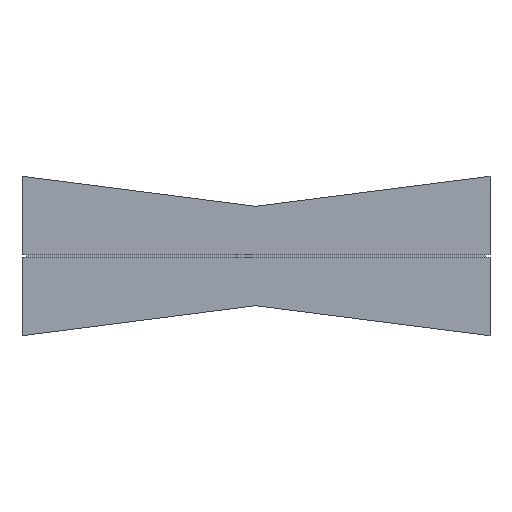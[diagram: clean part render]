
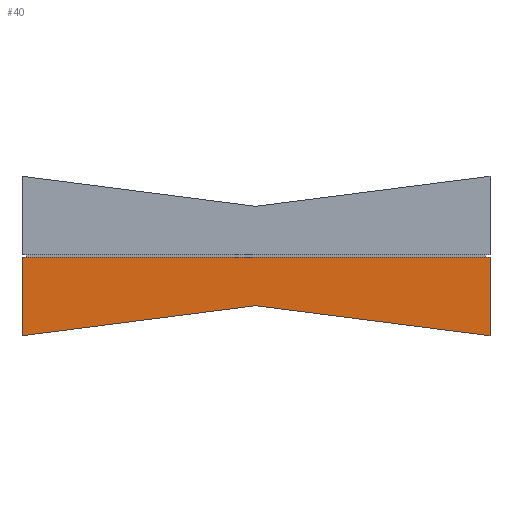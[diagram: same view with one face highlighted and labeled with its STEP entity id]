
A CAD part, left-side view. The second image highlights one B-rep face of the part: STEP entity #40.
In plain terms, the highlighted planar face has unit normal (-1, 0, 0).
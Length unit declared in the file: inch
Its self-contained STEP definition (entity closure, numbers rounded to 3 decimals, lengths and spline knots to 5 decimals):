
#40=ADVANCED_FACE('',(#88),#744,.T.);
#88=FACE_OUTER_BOUND('',#136,.T.);
#136=EDGE_LOOP('',(#258,#259,#260,#261,#262));
#258=ORIENTED_EDGE('',*,*,#461,.T.);
#259=ORIENTED_EDGE('',*,*,#440,.F.);
#260=ORIENTED_EDGE('',*,*,#438,.F.);
#261=ORIENTED_EDGE('',*,*,#460,.F.);
#262=ORIENTED_EDGE('',*,*,#453,.F.);
#438=EDGE_CURVE('',#667,#668,#558,.T.);
#440=EDGE_CURVE('',#668,#670,#560,.T.);
#453=EDGE_CURVE('',#679,#677,#573,.T.);
#460=EDGE_CURVE('',#677,#667,#580,.T.);
#461=EDGE_CURVE('',#679,#670,#581,.T.);
#558=B_SPLINE_CURVE_WITH_KNOTS('',1,(#1105,#1106),.UNSPECIFIED.,.F.,.F.,
(2,2),(-181.50568,-169.6714),.UNSPECIFIED.);
#560=B_SPLINE_CURVE_WITH_KNOTS('',1,(#1109,#1110),.UNSPECIFIED.,.F.,.F.,
(2,2),(-169.6714,-157.83712),.UNSPECIFIED.);
#573=B_SPLINE_CURVE_WITH_KNOTS('',1,(#1143,#1144),.UNSPECIFIED.,.F.,.F.,
(2,2),(-23.625,-0.125),.UNSPECIFIED.);
#580=B_SPLINE_CURVE_WITH_KNOTS('',1,(#1157,#1158),.UNSPECIFIED.,.F.,.F.,
(2,2),(-185.44318,-181.50568),.UNSPECIFIED.);
#581=B_SPLINE_CURVE_WITH_KNOTS('',1,(#1159,#1160),.UNSPECIFIED.,.F.,.F.,
(2,2),(153.89962,157.83712),.UNSPECIFIED.);
#667=VERTEX_POINT('',#1080);
#668=VERTEX_POINT('',#1081);
#670=VERTEX_POINT('',#1083);
#677=VERTEX_POINT('',#1090);
#679=VERTEX_POINT('',#1092);
#744=PLANE('',#883);
#883=AXIS2_PLACEMENT_3D('',#1073,#934,$);
#934=DIRECTION('',(-1.,0.,0.));
#1073=CARTESIAN_POINT('',(2710.03372,195.49431,165.94378));
#1080=CARTESIAN_POINT('',(2710.03372,171.99431,162.00628));
#1081=CARTESIAN_POINT('',(2710.03372,183.74431,163.51099));
#1083=CARTESIAN_POINT('',(2710.03372,195.49431,162.00628));
#1090=CARTESIAN_POINT('',(2710.03372,171.99431,165.94378));
#1092=CARTESIAN_POINT('',(2710.03372,195.49431,165.94378));
#1105=CARTESIAN_POINT('',(2710.03372,171.99431,162.00628));
#1106=CARTESIAN_POINT('',(2710.03372,183.74431,163.51099));
#1109=CARTESIAN_POINT('',(2710.03372,183.74431,163.51099));
#1110=CARTESIAN_POINT('',(2710.03372,195.49431,162.00628));
#1143=CARTESIAN_POINT('',(2710.03372,195.49431,165.94378));
#1144=CARTESIAN_POINT('',(2710.03372,171.99431,165.94378));
#1157=CARTESIAN_POINT('',(2710.03372,171.99431,165.94378));
#1158=CARTESIAN_POINT('',(2710.03372,171.99431,162.00628));
#1159=CARTESIAN_POINT('',(2710.03372,195.49431,165.94378));
#1160=CARTESIAN_POINT('',(2710.03372,195.49431,162.00628));
